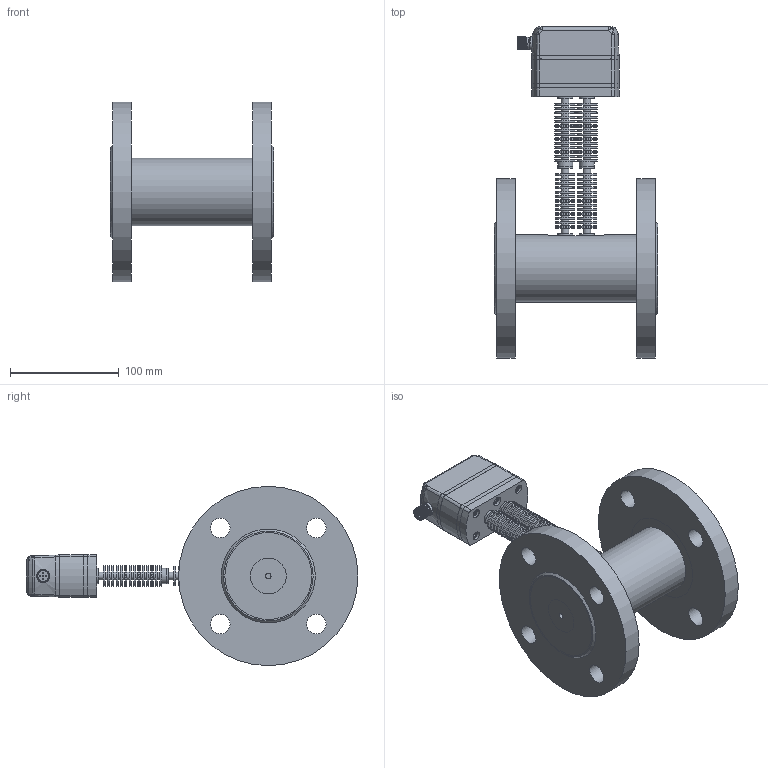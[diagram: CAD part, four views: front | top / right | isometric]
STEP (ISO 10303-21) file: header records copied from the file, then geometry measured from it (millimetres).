
FILE_DESCRIPTION( (''), '2;1');
FILE_NAME( 'QEKH_DN50_flange_cooling-fins_2.step', '2025-04-29T15:09:05+08:00', (''), (''), '', '', '');
FILE_SCHEMA (('AUTOMOTIVE_DESIGN { 1 0 10303 214 3 1 1 1 }'));
Length unit declared in the file: millimetre
Products named in the file (1): QEKH DN50_flange_cooling-fins_2
Bounding box: 150 x 305.4 x 165 mm (x, y, z)
Volume: 1441386.9 mm3; surface area: 264848.7 mm2
Topology: 30 solids, 33 shells, 1892 faces, 4384 edges, 2787 vertices
Faces by surface type: plane 864, cylinder 416, cone 264, extrusion 239, torus 52, bspline 48, sphere 9
Full cylindrical faces by diameter (mm): 1 x10, 2.05 x4, 2.6 x4, 2.7 x5, 2.874 x4, 3 x8, 3.1 x1, 3.3 x8, 3.5 x7, 3.838 x6, 4.2 x2, 4.5 x12, 5 x3, 5.5 x10, 7 x62, 8 x4, 9 x2, 9.8 x2, 10.8 x1, 11 x8, 11.5 x2, 11.992 x2, 12 x8, 14 x10, 14.5 x2, 17 x2, 18 x34, 19 x28, 19.1 x6, 25 x1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
Entity records: 57904 total; most frequent: CARTESIAN_POINT 17383, DIRECTION 7741, ORIENTED_EDGE 7604, EDGE_CURVE 3802, AXIS2_PLACEMENT_3D 2833, VERTEX_POINT 2694, EDGE_LOOP 2676, VECTOR 2075
